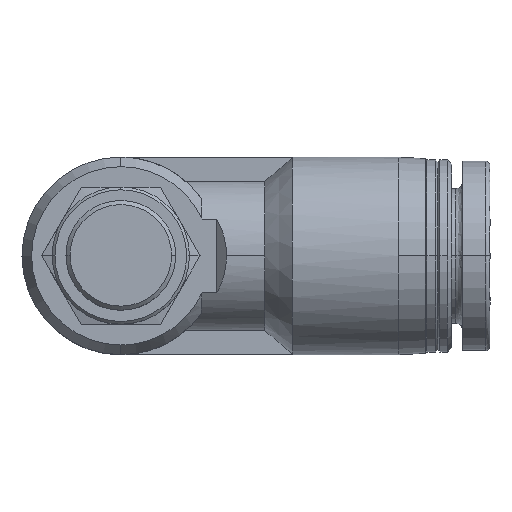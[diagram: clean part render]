
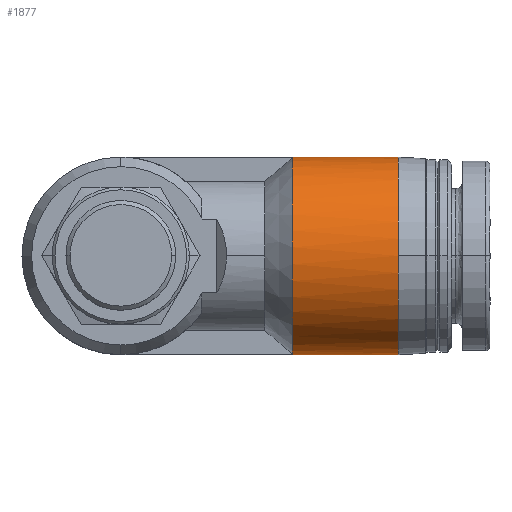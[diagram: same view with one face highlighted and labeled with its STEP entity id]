
A CAD part, top view. The second image highlights one B-rep face of the part: STEP entity #1877.
In plain terms, the highlighted cylindrical face has radius 7.2 mm (diameter 14.4 mm), a partial arc.
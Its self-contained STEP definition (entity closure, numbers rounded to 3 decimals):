
#12 = ORIENTED_EDGE ( 'NONE', *, *, #3465, .F. ) ;
#89 = DIRECTION ( 'NONE',  ( 1., 0., 0. ) ) ;
#105 = DIRECTION ( 'NONE',  ( -1., 0., 0. ) ) ;
#119 = CARTESIAN_POINT ( 'NONE',  ( 0.251, -7.2, 16.151 ) ) ;
#135 = CIRCLE ( 'NONE', #190, 7.2 ) ;
#176 = CARTESIAN_POINT ( 'NONE',  ( 0., 7.2, 15.9 ) ) ;
#190 = AXIS2_PLACEMENT_3D ( 'NONE', #1095, #1995, #1144 ) ;
#219 = CARTESIAN_POINT ( 'NONE',  ( 20.2, 7.2, 15.9 ) ) ;
#259 = EDGE_CURVE ( 'NONE', #2768, #782, #3603, .T. ) ;
#262 = CARTESIAN_POINT ( 'NONE',  ( 0.75, 7.161, 16.65 ) ) ;
#276 = EDGE_CURVE ( 'NONE', #709, #1333, #689, .T. ) ;
#317 = DIRECTION ( 'NONE',  ( -1., 0., 0. ) ) ;
#390 = CARTESIAN_POINT ( 'NONE',  ( 0., -7.2, 15.9 ) ) ;
#416 = CARTESIAN_POINT ( 'NONE',  ( 0.75, -7.161, 16.65 ) ) ;
#425 = VERTEX_POINT ( 'NONE', #636 ) ;
#531 = VERTEX_POINT ( 'NONE', #3134 ) ;
#636 = CARTESIAN_POINT ( 'NONE',  ( 0., -7.2, 15.9 ) ) ;
#657 = CYLINDRICAL_SURFACE ( 'NONE', #2937, 7.2 ) ;
#689 = LINE ( 'NONE', #1600, #1289 ) ;
#709 = VERTEX_POINT ( 'NONE', #219 ) ;
#714 = CARTESIAN_POINT ( 'NONE',  ( 12.5, 0., 15.9 ) ) ;
#754 = ORIENTED_EDGE ( 'NONE', *, *, #2601, .F. ) ;
#782 = VERTEX_POINT ( 'NONE', #2387 ) ;
#785 = LINE ( 'NONE', #981, #3222 ) ;
#861 = DIRECTION ( 'NONE',  ( 1., 0., 0. ) ) ;
#981 = CARTESIAN_POINT ( 'NONE',  ( 20.2, -7.161, 16.65 ) ) ;
#992 = EDGE_CURVE ( 'NONE', #709, #2120, #135, .T. ) ;
#1007 = DIRECTION ( 'NONE',  ( 0., -1., 0. ) ) ;
#1073 = CARTESIAN_POINT ( 'NONE',  ( 20.2, 0., 15.9 ) ) ;
#1095 = CARTESIAN_POINT ( 'NONE',  ( 20.2, 0., 15.9 ) ) ;
#1144 = DIRECTION ( 'NONE',  ( 0., 0.05, -0.999 ) ) ;
#1250 = VERTEX_POINT ( 'NONE', #262 ) ;
#1260 = FACE_OUTER_BOUND ( 'NONE', #3716, .T. ) ;
#1285 = CARTESIAN_POINT ( 'NONE',  ( 20.2, 0., 23.1 ) ) ;
#1289 = VECTOR ( 'NONE', #3039, 1000. ) ;
#1333 = VERTEX_POINT ( 'NONE', #2288 ) ;
#1348 = CARTESIAN_POINT ( 'NONE',  ( 12.5, 7.161, 16.65 ) ) ;
#1351 = VERTEX_POINT ( 'NONE', #2893 ) ;
#1523 = EDGE_CURVE ( 'NONE', #2120, #1351, #3618, .T. ) ;
#1600 = CARTESIAN_POINT ( 'NONE',  ( 20.2, 7.2, 15.9 ) ) ;
#1631 = ORIENTED_EDGE ( 'NONE', *, *, #2316, .F. ) ;
#1680 =( BOUNDED_CURVE ( )  B_SPLINE_CURVE ( 3, ( #390, #119, #2165, #416 ),
 .UNSPECIFIED., .F., .T. ) 
 B_SPLINE_CURVE_WITH_KNOTS ( ( 4, 4 ),
 ( 1.571, 1.675 ),
 .UNSPECIFIED. ) 
 CURVE ( )  GEOMETRIC_REPRESENTATION_ITEM ( )  RATIONAL_B_SPLINE_CURVE ( ( 1., 0.999, 0.999, 1. ) ) 
 REPRESENTATION_ITEM ( '' )  );
#1708 = ORIENTED_EDGE ( 'NONE', *, *, #1729, .T. ) ;
#1727 = VECTOR ( 'NONE', #89, 1000. ) ;
#1729 = EDGE_CURVE ( 'NONE', #1250, #2768, #2493, .T. ) ;
#1735 =( BOUNDED_CURVE ( )  B_SPLINE_CURVE ( 3, ( #2492, #2786, #1933, #176 ),
 .UNSPECIFIED., .F., .F. ) 
 B_SPLINE_CURVE_WITH_KNOTS ( ( 4, 4 ),
 ( 4.608, 4.712 ),
 .UNSPECIFIED. ) 
 CURVE ( )  GEOMETRIC_REPRESENTATION_ITEM ( )  RATIONAL_B_SPLINE_CURVE ( ( 1., 0.999, 0.999, 1. ) ) 
 REPRESENTATION_ITEM ( '' )  );
#1817 = AXIS2_PLACEMENT_3D ( 'NONE', #3128, #861, #3488 ) ;
#1877 = ADVANCED_FACE ( '33', ( #1260 ), #657, .T. ) ;
#1893 = ORIENTED_EDGE ( 'NONE', *, *, #992, .F. ) ;
#1933 = CARTESIAN_POINT ( 'NONE',  ( 0.251, 7.2, 16.151 ) ) ;
#1991 = AXIS2_PLACEMENT_3D ( 'NONE', #714, #2759, #1007 ) ;
#1995 = DIRECTION ( 'NONE',  ( 1., 0., 0. ) ) ;
#2090 = EDGE_CURVE ( 'NONE', #782, #531, #785, .T. ) ;
#2120 = VERTEX_POINT ( 'NONE', #1285 ) ;
#2165 = CARTESIAN_POINT ( 'NONE',  ( 0.501, -7.187, 16.401 ) ) ;
#2288 = CARTESIAN_POINT ( 'NONE',  ( 0., 7.2, 15.9 ) ) ;
#2316 = EDGE_CURVE ( 'NONE', #1250, #1333, #1735, .T. ) ;
#2387 = CARTESIAN_POINT ( 'NONE',  ( 12.5, -7.161, 16.65 ) ) ;
#2492 = CARTESIAN_POINT ( 'NONE',  ( 0.75, 7.161, 16.65 ) ) ;
#2493 = LINE ( 'NONE', #3285, #1727 ) ;
#2524 = DIRECTION ( 'NONE',  ( -1., 0., 0. ) ) ;
#2601 = EDGE_CURVE ( 'NONE', #1351, #425, #3397, .T. ) ;
#2638 = VECTOR ( 'NONE', #317, 1000. ) ;
#2662 = ORIENTED_EDGE ( 'NONE', *, *, #2090, .T. ) ;
#2680 = ORIENTED_EDGE ( 'NONE', *, *, #259, .T. ) ;
#2695 = CARTESIAN_POINT ( 'NONE',  ( 20.2, -7.2, 15.9 ) ) ;
#2759 = DIRECTION ( 'NONE',  ( 1., 0., 0. ) ) ;
#2768 = VERTEX_POINT ( 'NONE', #1348 ) ;
#2786 = CARTESIAN_POINT ( 'NONE',  ( 0.501, 7.187, 16.401 ) ) ;
#2823 = DIRECTION ( 'NONE',  ( 0., -1., 0. ) ) ;
#2893 = CARTESIAN_POINT ( 'NONE',  ( 20.2, -7.2, 15.9 ) ) ;
#2937 = AXIS2_PLACEMENT_3D ( 'NONE', #1073, #2524, #2823 ) ;
#2986 = ORIENTED_EDGE ( 'NONE', *, *, #1523, .F. ) ;
#3039 = DIRECTION ( 'NONE',  ( -1., 0., 0. ) ) ;
#3128 = CARTESIAN_POINT ( 'NONE',  ( 20.2, 0., 15.9 ) ) ;
#3134 = CARTESIAN_POINT ( 'NONE',  ( 0.75, -7.161, 16.65 ) ) ;
#3222 = VECTOR ( 'NONE', #105, 1000. ) ;
#3285 = CARTESIAN_POINT ( 'NONE',  ( 20.2, 7.161, 16.65 ) ) ;
#3397 = LINE ( 'NONE', #2695, #2638 ) ;
#3465 = EDGE_CURVE ( 'NONE', #425, #531, #1680, .T. ) ;
#3488 = DIRECTION ( 'NONE',  ( 0., 0.05, -0.999 ) ) ;
#3603 = CIRCLE ( 'NONE', #1991, 7.2 ) ;
#3618 = CIRCLE ( 'NONE', #1817, 7.2 ) ;
#3710 = ORIENTED_EDGE ( 'NONE', *, *, #276, .T. ) ;
#3716 = EDGE_LOOP ( 'NONE', ( #1893, #3710, #1631, #1708, #2680, #2662, #12, #754, #2986 ) ) ;
